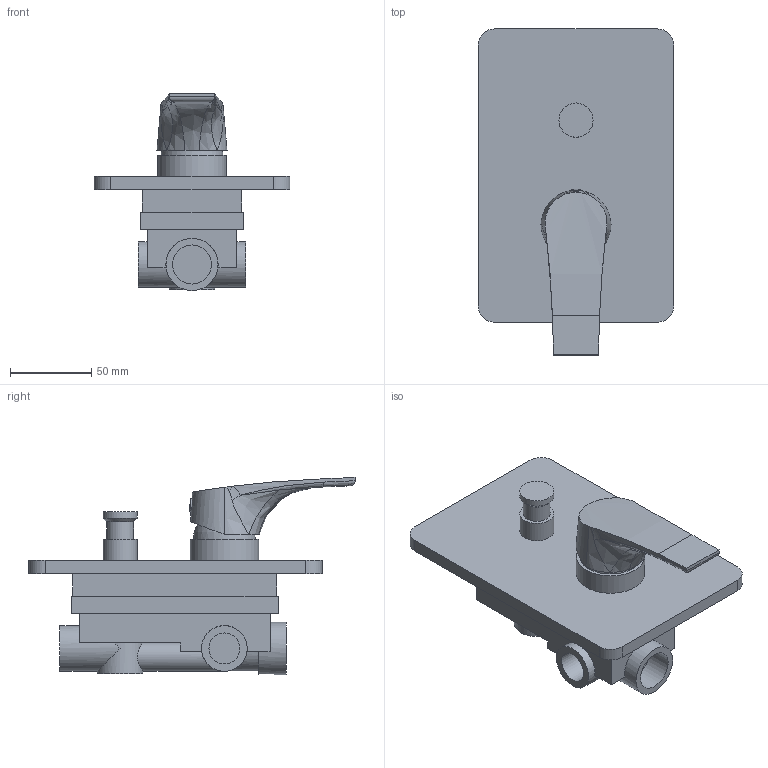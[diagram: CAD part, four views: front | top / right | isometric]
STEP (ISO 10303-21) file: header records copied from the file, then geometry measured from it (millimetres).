
FILE_DESCRIPTION(/* description */ ('SIGMA Bateria wannowo-natryskowa podtynkowa'),/* implementation_level */ '2;1');
FILE_NAME(/* name */ 'C:\Nextcloud\02_biblioteki_cad\Valvex\Projekt\PROJECTS\Eksport\ETAP 4\2456170\2456170.stp',/* time_stamp */ '2021-08-09T10:49:55+02:00',/* author */ ('Cadventure'),/* organization */ (''),/* preprocessor_version */ 'ST-DEVELOPER v18.1',/* originating_system */ 'Autodesk Inventor 2020',/* authorisation */ '');
FILE_SCHEMA (('AUTOMOTIVE_DESIGN { 1 0 10303 214 3 1 1 }'));
Length unit declared in the file: millimetre
Products named in the file (1): 2456170
Bounding box: 120 x 200.25 x 120.96 mm (x, y, z)
Volume: 631505.2 mm3; surface area: 108872 mm2
Topology: 3 solids, 3 shells, 93 faces, 244 edges, 165 vertices
Faces by surface type: plane 47, cylinder 28, bspline 16, cone 1, sphere 1
Full cylindrical faces by diameter (mm): 6 x2, 8 x1, 16.5 x1, 19 x3, 21 x2, 24 x1, 28 x4, 32 x1, 42 x1
Entity records: 3816 total; most frequent: CARTESIAN_POINT 1396, ORIENTED_EDGE 482, DIRECTION 461, EDGE_CURVE 241, AXIS2_PLACEMENT_3D 177, VERTEX_POINT 165, EDGE_LOOP 108, LINE 107
